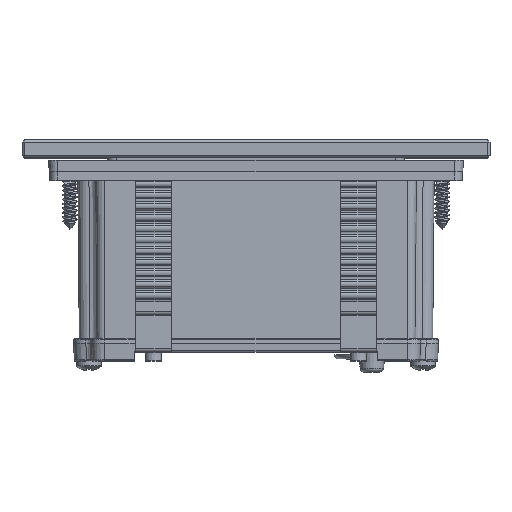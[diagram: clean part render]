
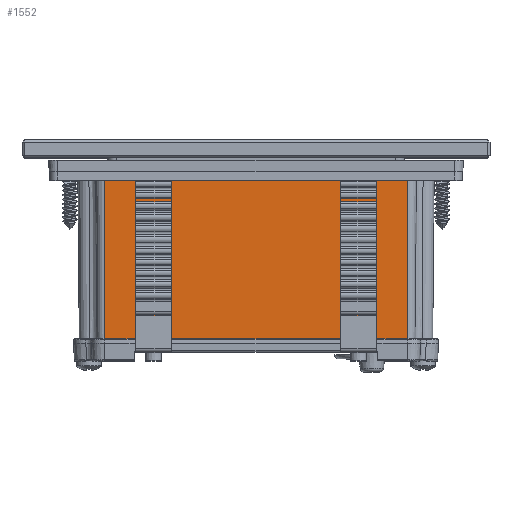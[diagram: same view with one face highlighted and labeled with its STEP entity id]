
A CAD part, top view. The second image highlights one B-rep face of the part: STEP entity #1552.
In plain terms, the highlighted planar face has unit normal (0, -0.009, 1).
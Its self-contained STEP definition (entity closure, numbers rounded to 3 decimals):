
#305=DIRECTION('',(1.,0.,0.));
#306=VECTOR('',#305,68.);
#307=CARTESIAN_POINT('',(-34.,10.203,24.476));
#308=LINE('',#307,#306);
#309=DIRECTION('',(0.,-1.,-0.009));
#310=VECTOR('',#309,37.704);
#311=CARTESIAN_POINT('',(34.,10.203,24.476));
#312=LINE('',#311,#310);
#313=DIRECTION('',(-1.,0.,0.));
#314=VECTOR('',#313,68.);
#315=CARTESIAN_POINT('',(34.,-27.5,24.147));
#316=LINE('',#315,#314);
#317=DIRECTION('',(0.,-1.,-0.009));
#318=VECTOR('',#317,37.704);
#319=CARTESIAN_POINT('',(-34.,10.203,24.476));
#320=LINE('',#319,#318);
#1243=CARTESIAN_POINT('',(-34.,-27.5,24.147));
#1245=VERTEX_POINT('',#1243);
#1248=CARTESIAN_POINT('',(34.,-27.5,24.147));
#1250=VERTEX_POINT('',#1248);
#1323=CARTESIAN_POINT('',(34.,10.203,24.476));
#1325=VERTEX_POINT('',#1323);
#1399=CARTESIAN_POINT('',(-34.,10.203,24.476));
#1400=VERTEX_POINT('',#1399);
#1537=CARTESIAN_POINT('',(-37.12,13.,24.5));
#1538=DIRECTION('',(0.,-0.009,1.));
#1539=DIRECTION('',(1.,0.,0.));
#1540=AXIS2_PLACEMENT_3D('',#1537,#1538,#1539);
#1541=PLANE('',#1540);
#1543=ORIENTED_EDGE('',*,*,#1542,.T.);
#1545=ORIENTED_EDGE('',*,*,#1544,.T.);
#1547=ORIENTED_EDGE('',*,*,#1546,.T.);
#1549=ORIENTED_EDGE('',*,*,#1548,.F.);
#1550=EDGE_LOOP('',(#1543,#1545,#1547,#1549));
#1551=FACE_OUTER_BOUND('',#1550,.F.);
#1552=ADVANCED_FACE('',(#1551),#1541,.T.);
#1542=EDGE_CURVE('',#1400,#1325,#308,.T.);
#1544=EDGE_CURVE('',#1325,#1250,#312,.T.);
#1546=EDGE_CURVE('',#1250,#1245,#316,.T.);
#1548=EDGE_CURVE('',#1400,#1245,#320,.T.);
